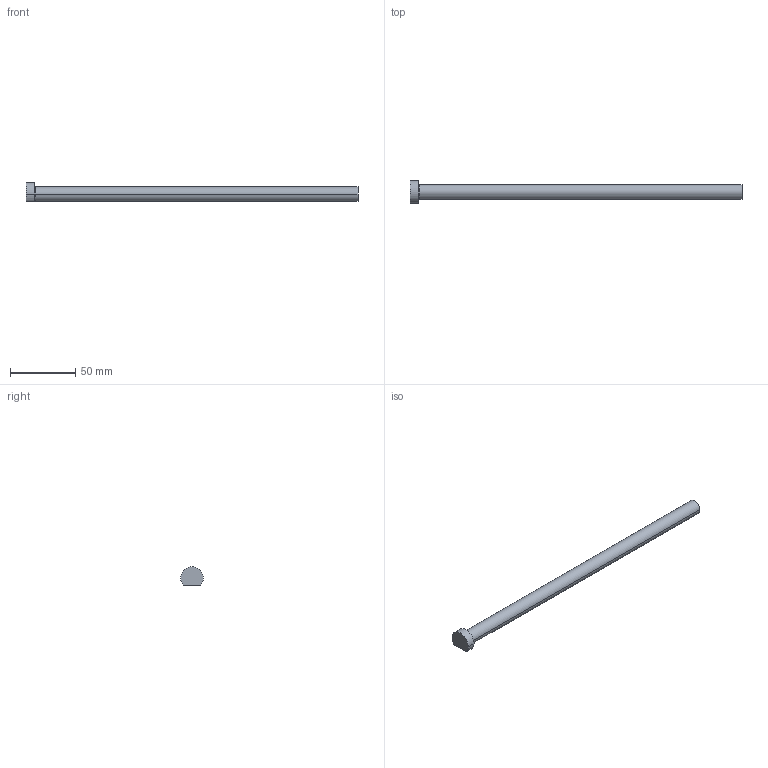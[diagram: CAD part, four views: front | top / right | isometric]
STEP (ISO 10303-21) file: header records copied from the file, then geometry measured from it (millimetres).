
FILE_DESCRIPTION (( 'STEP AP203' ), '1' );
FILE_NAME ('DHP29-10T.step', '2015-05-12T00:25:50', ( '' ), ( '' ), 'SwSTEP 2.0', 'SolidWorks 2009', '' );
FILE_SCHEMA (( 'CONFIG_CONTROL_DESIGN' ));
Length unit declared in the file: inch
Products named in the file (1): DHP29-10T
Bounding box: 254 x 17.46 x 14.29 mm (x, y, z)
Volume: 25355.2 mm3; surface area: 9390.9 mm2
Topology: 1 solids, 1 shells, 11 faces, 25 edges, 16 vertices
Faces by surface type: cylinder 5, plane 4, torus 2
Entity records: 426 total; most frequent: CARTESIAN_POINT 84, DIRECTION 63, ORIENTED_EDGE 50, AXIS2_PLACEMENT_3D 27, EDGE_CURVE 25, VERTEX_POINT 16, CIRCLE 15, EDGE_LOOP 11
